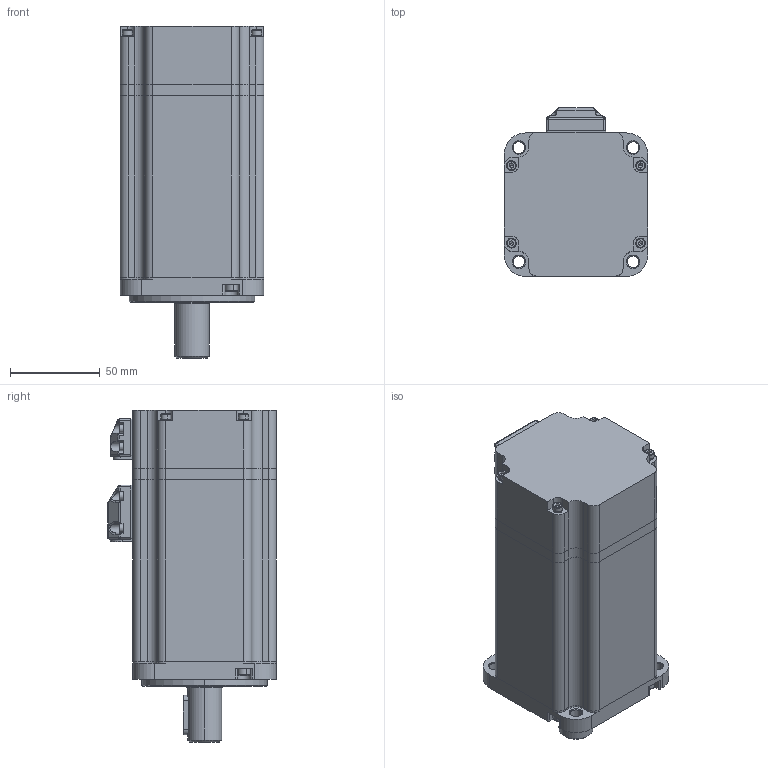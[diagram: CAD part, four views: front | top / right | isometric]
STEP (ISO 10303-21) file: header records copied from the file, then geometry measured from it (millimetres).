
FILE_DESCRIPTION (( 'STEP AP203' ), '1' );
FILE_NAME ('9.5927-SMC80S-0075-30ABK-5DSH.STEP', '2021-05-12T08:50:00', ( '' ), ( '' ), 'SwSTEP 2.0', 'SolidWorks 2018', '' );
FILE_SCHEMA (( 'CONFIG_CONTROL_DESIGN' ));
Products named in the file (1): 9.5927-SMC80S-0075-30ABK-5DSH
Bounding box: 80 x 94 x 185 mm (x, y, z)
Volume: 331006 mm3; surface area: 183232.2 mm2
Topology: 42 solids, 42 shells, 2020 faces, 5411 edges, 3390 vertices
Faces by surface type: cylinder 786, plane 703, torus 209, sphere 194, cone 118, bspline 10
Entity records: 66773 total; most frequent: CARTESIAN_POINT 16566, DIRECTION 10855, ORIENTED_EDGE 10410, EDGE_CURVE 5205, AXIS2_PLACEMENT_3D 4342, VERTEX_POINT 3340, CIRCLE 2331, EDGE_LOOP 2293
